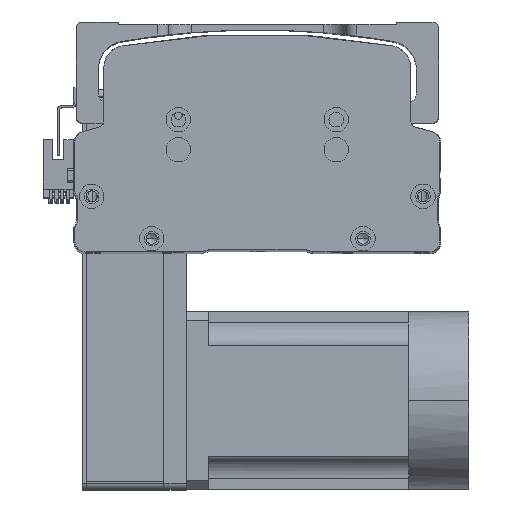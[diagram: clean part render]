
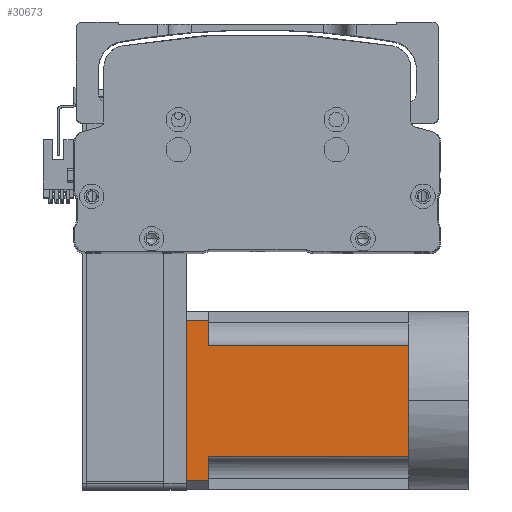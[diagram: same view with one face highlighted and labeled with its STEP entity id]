
A CAD part, top view. The second image highlights one B-rep face of the part: STEP entity #30673.
In plain terms, the highlighted planar face has unit normal (0, 0, 1) as drawn and (0, 0, -1) by its records, which use the part's own axes.
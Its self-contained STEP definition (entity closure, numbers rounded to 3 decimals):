
#1444 = CARTESIAN_POINT ( 'NONE',  ( -40., 0., -40. ) ) ;
#1532 = CARTESIAN_POINT ( 'NONE',  ( 36., 90., -40. ) ) ;
#1766 = DIRECTION ( 'NONE',  ( 0., 1., 0. ) ) ;
#3641 = VERTEX_POINT ( 'NONE', #25992 ) ;
#6537 = VERTEX_POINT ( 'NONE', #28500 ) ;
#7148 = CARTESIAN_POINT ( 'NONE',  ( -40., 100., -40. ) ) ;
#8470 = AXIS2_PLACEMENT_3D ( 'NONE', #48802, #58231, #30226 ) ;
#9050 = ORIENTED_EDGE ( 'NONE', *, *, #54263, .T. ) ;
#9718 = CARTESIAN_POINT ( 'NONE',  ( -36., -27., -40. ) ) ;
#9985 = CARTESIAN_POINT ( 'NONE',  ( -36., 100., -40. ) ) ;
#10198 = EDGE_CURVE ( 'NONE', #54819, #13922, #56684, .T. ) ;
#10322 = LINE ( 'NONE', #34424, #22767 ) ;
#11100 = DIRECTION ( 'NONE',  ( -1., 0., 0. ) ) ;
#11586 = EDGE_CURVE ( 'NONE', #6537, #28902, #46250, .T. ) ;
#11843 = CARTESIAN_POINT ( 'NONE',  ( -40., 0., -40. ) ) ;
#13922 = VERTEX_POINT ( 'NONE', #26836 ) ;
#16415 = ORIENTED_EDGE ( 'NONE', *, *, #42249, .F. ) ;
#16539 = CARTESIAN_POINT ( 'NONE',  ( 25., 90., -40. ) ) ;
#16929 = EDGE_CURVE ( 'NONE', #41740, #3641, #56635, .T. ) ;
#16977 = DIRECTION ( 'NONE',  ( 0., -1., 0. ) ) ;
#17060 = VERTEX_POINT ( 'NONE', #59188 ) ;
#18198 = ORIENTED_EDGE ( 'NONE', *, *, #28813, .T. ) ;
#19040 = ORIENTED_EDGE ( 'NONE', *, *, #10198, .T. ) ;
#21384 = VECTOR ( 'NONE', #37935, 1000. ) ;
#22767 = VECTOR ( 'NONE', #11100, 1000. ) ;
#22863 = CARTESIAN_POINT ( 'NONE',  ( 25., -27., -40. ) ) ;
#24477 = VERTEX_POINT ( 'NONE', #55407 ) ;
#25992 = CARTESIAN_POINT ( 'NONE',  ( -25., 90., -40. ) ) ;
#26836 = CARTESIAN_POINT ( 'NONE',  ( 25., 0., -40. ) ) ;
#27369 = VECTOR ( 'NONE', #1766, 1000. ) ;
#27594 = DIRECTION ( 'NONE',  ( -1., 0., 0. ) ) ;
#27595 = LINE ( 'NONE', #11843, #38563 ) ;
#28280 = VECTOR ( 'NONE', #34120, 1000. ) ;
#28419 = LINE ( 'NONE', #44998, #54754 ) ;
#28500 = CARTESIAN_POINT ( 'NONE',  ( -36., 90., -40. ) ) ;
#28813 = EDGE_CURVE ( 'NONE', #39460, #54819, #48553, .T. ) ;
#28902 = VERTEX_POINT ( 'NONE', #9985 ) ;
#30226 = DIRECTION ( 'NONE',  ( -1., 0., 0. ) ) ;
#30356 = ORIENTED_EDGE ( 'NONE', *, *, #11586, .T. ) ;
#30673 = ADVANCED_FACE ( 'NONE', ( #46316 ), #53319, .T. ) ;
#34120 = DIRECTION ( 'NONE',  ( -1., 0., 0. ) ) ;
#34270 = CARTESIAN_POINT ( 'NONE',  ( -25., -27., -40. ) ) ;
#34424 = CARTESIAN_POINT ( 'NONE',  ( -40., 90., -40. ) ) ;
#35194 = DIRECTION ( 'NONE',  ( -1., 0., 0. ) ) ;
#36273 = ORIENTED_EDGE ( 'NONE', *, *, #57150, .T. ) ;
#36805 = VECTOR ( 'NONE', #49450, 1000. ) ;
#37623 = VECTOR ( 'NONE', #27594, 1000. ) ;
#37935 = DIRECTION ( 'NONE',  ( 0., 1., 0. ) ) ;
#38563 = VECTOR ( 'NONE', #35194, 1000. ) ;
#39460 = VERTEX_POINT ( 'NONE', #1532 ) ;
#40956 = CARTESIAN_POINT ( 'NONE',  ( -25., 0., -40. ) ) ;
#41704 = CARTESIAN_POINT ( 'NONE',  ( -40., 90., -40. ) ) ;
#41740 = VERTEX_POINT ( 'NONE', #40956 ) ;
#42249 = EDGE_CURVE ( 'NONE', #17060, #28902, #49208, .T. ) ;
#42783 = VECTOR ( 'NONE', #51052, 1000. ) ;
#44998 = CARTESIAN_POINT ( 'NONE',  ( 36., -27., -40. ) ) ;
#46250 = LINE ( 'NONE', #9718, #21384 ) ;
#46316 = FACE_OUTER_BOUND ( 'NONE', #59903, .T. ) ;
#46365 = EDGE_CURVE ( 'NONE', #13922, #24477, #53156, .T. ) ;
#48553 = LINE ( 'NONE', #41704, #37623 ) ;
#48575 = ORIENTED_EDGE ( 'NONE', *, *, #46365, .T. ) ;
#48802 = CARTESIAN_POINT ( 'NONE',  ( -40., -27., -40. ) ) ;
#49208 = LINE ( 'NONE', #7148, #36805 ) ;
#49450 = DIRECTION ( 'NONE',  ( -1., 0., 0. ) ) ;
#50556 = ORIENTED_EDGE ( 'NONE', *, *, #16929, .T. ) ;
#51052 = DIRECTION ( 'NONE',  ( 0., -1., 0. ) ) ;
#53156 = LINE ( 'NONE', #1444, #28280 ) ;
#53319 = PLANE ( 'NONE',  #8470 ) ;
#54263 = EDGE_CURVE ( 'NONE', #3641, #6537, #10322, .T. ) ;
#54754 = VECTOR ( 'NONE', #16977, 1000. ) ;
#54819 = VERTEX_POINT ( 'NONE', #16539 ) ;
#55407 = CARTESIAN_POINT ( 'NONE',  ( 0., 0., -40. ) ) ;
#56490 = EDGE_CURVE ( 'NONE', #17060, #39460, #28419, .T. ) ;
#56635 = LINE ( 'NONE', #34270, #27369 ) ;
#56684 = LINE ( 'NONE', #22863, #42783 ) ;
#56792 = ORIENTED_EDGE ( 'NONE', *, *, #56490, .T. ) ;
#57150 = EDGE_CURVE ( 'NONE', #24477, #41740, #27595, .T. ) ;
#58231 = DIRECTION ( 'NONE',  ( 0., 0., -1. ) ) ;
#59188 = CARTESIAN_POINT ( 'NONE',  ( 36., 100., -40. ) ) ;
#59903 = EDGE_LOOP ( 'NONE', ( #16415, #56792, #18198, #19040, #48575, #36273, #50556, #9050, #30356 ) ) ;
